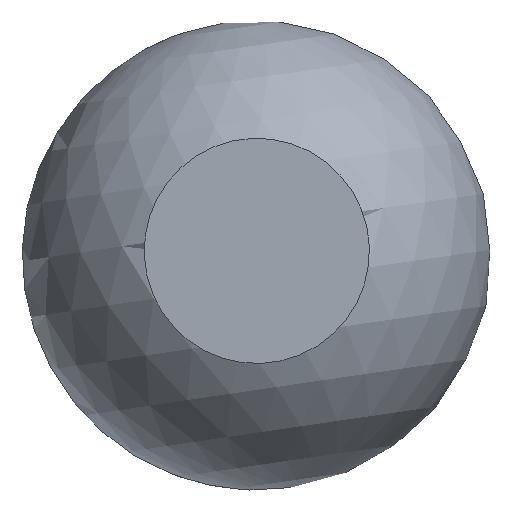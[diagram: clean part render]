
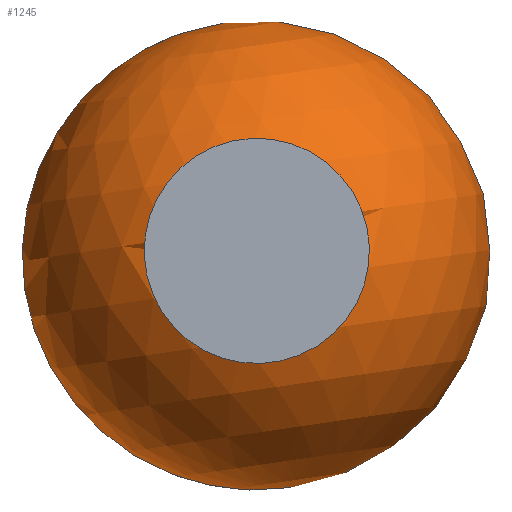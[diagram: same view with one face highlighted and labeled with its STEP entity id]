
A CAD part, top view. The second image highlights one B-rep face of the part: STEP entity #1245.
In plain terms, the highlighted spherical face has radius 125 mm.
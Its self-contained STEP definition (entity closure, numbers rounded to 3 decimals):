
#45=FACE_BOUND('',#358,.T.);
#87=SPHERICAL_SURFACE('',#1398,125.);
#254=FACE_OUTER_BOUND('',#357,.T.);
#357=EDGE_LOOP('',(#886,#887));
#358=EDGE_LOOP('',(#888));
#473=CIRCLE('',#1395,14.491);
#475=CIRCLE('',#1399,125.);
#577=VERTEX_POINT('',#2098);
#580=VERTEX_POINT('',#2106);
#581=VERTEX_POINT('',#2107);
#693=EDGE_CURVE('',#577,#577,#473,.T.);
#695=EDGE_CURVE('',#580,#581,#475,.T.);
#886=ORIENTED_EDGE('',*,*,#695,.T.);
#887=ORIENTED_EDGE('',*,*,#695,.F.);
#888=ORIENTED_EDGE('',*,*,#693,.F.);
#1245=ADVANCED_FACE('',(#254,#45),#87,.T.);
#1395=AXIS2_PLACEMENT_3D('',#2100,#1633,#1634);
#1398=AXIS2_PLACEMENT_3D('',#2105,#1639,#1640);
#1399=AXIS2_PLACEMENT_3D('',#2108,#1641,#1642);
#1633=DIRECTION('center_axis',(0.,0.,
1.));
#1634=DIRECTION('ref_axis',(0.989,0.145,0.));
#1639=DIRECTION('center_axis',(0.145,-0.989,0.));
#1640=DIRECTION('ref_axis',(0.989,0.145,0.));
#1641=DIRECTION('center_axis',(0.,0.,
-1.));
#1642=DIRECTION('ref_axis',(-0.989,-0.145,0.));
#2098=CARTESIAN_POINT('',(-2.096,14.338,249.157));
#2100=CARTESIAN_POINT('Origin',(0.,0.,
249.157));
#2105=CARTESIAN_POINT('Origin',(0.,0.,
125.));
#2106=CARTESIAN_POINT('',(18.079,-123.686,125.));
#2107=CARTESIAN_POINT('',(-18.079,123.686,125.));
#2108=CARTESIAN_POINT('Origin',(0.,0.,
125.));
